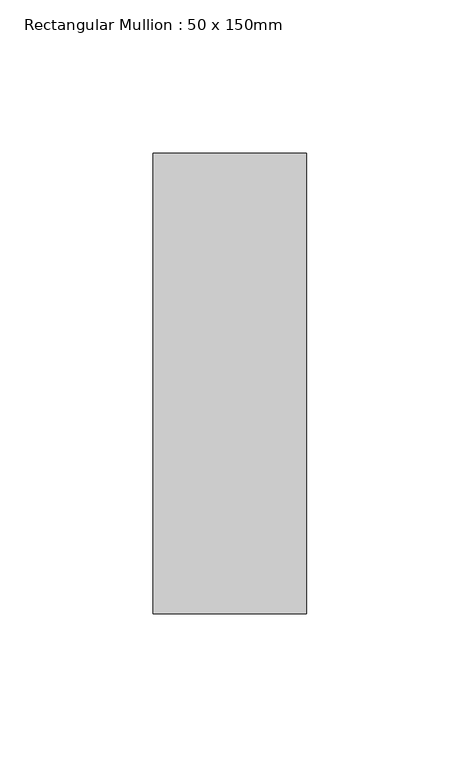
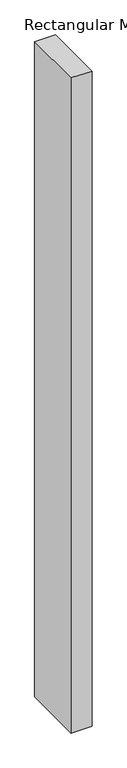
"""IFC4 building model written with IfcOpenShell, lengths in millimetres: member geometry, Rectangular Mullion : 50 x 150mm."""

from ifc_helpers import new_model, si_unit, frame, origin, place, context, project, spatial, polyline, outline, extrude, source, transform, mapped, element, save


def rectangular_mullion_50_x_150mm_500522d2(model_context):
    return source(origin(), model_context, "Body", "SweptSolid", [
        extrude(outline(polyline([(0.0, 75.0), (0.0, -75.0), (-50.0, -75.0), (-50.0, 75.0), (0.0, 75.0)])), frame((0.0, 0.0, -1650.0), z_axis=(0.0, 0.0, 1.0), x_axis=(1.0, 0.0, 0.0)), (0.0, 0.0, 1.0), 1650.0),
    ])


if __name__ == "__main__":
    model = new_model("IFC4")
    model_context = context("Model", 3, world=origin())
    ifc_project = project(units=[si_unit("LENGTHUNIT", "METRE", prefix="MILLI")], contexts=[model_context])
    site = spatial("IfcSite", under=ifc_project)
    building = spatial("IfcBuilding", under=site)
    placement = place(None, origin())
    rectangular_mullion_50_x_150mm_shape = rectangular_mullion_50_x_150mm_500522d2(model_context)
    element("IfcMember", 1, ObjectType="Rectangular Mullion : 50 x 150mm", at=placement, inside=building, context=model_context, shape_type="MappedRepresentation", body=[
        mapped(rectangular_mullion_50_x_150mm_shape, transform((0.0, 0.0, 0.0), x_axis=(1.0, 0.0, 0.0), y_axis=(0.0, 1.0, 0.0), z_axis=(0.0, 0.0, 1.0))),
    ])
    save(model, "model.ifc")
